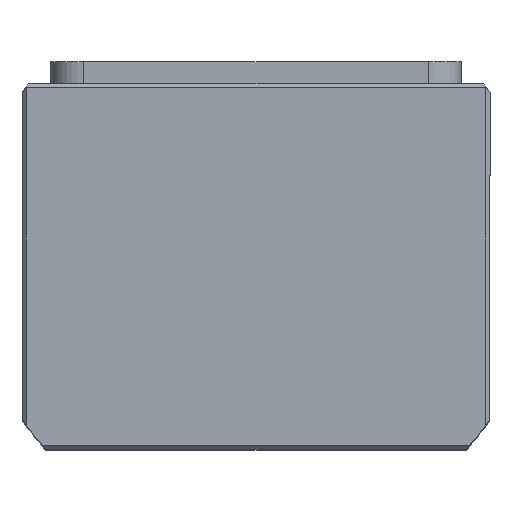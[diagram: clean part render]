
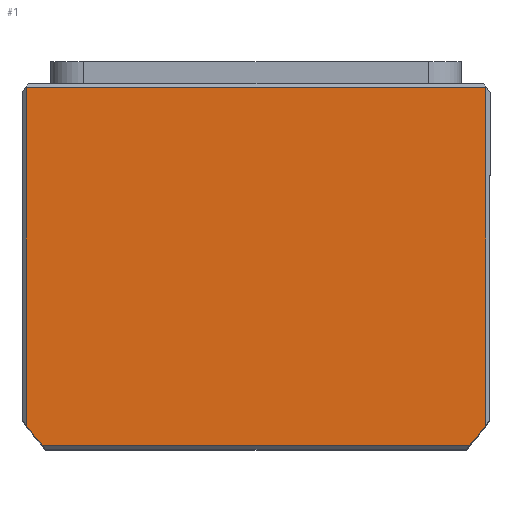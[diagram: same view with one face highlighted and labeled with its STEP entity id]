
A CAD part, top view. The second image highlights one B-rep face of the part: STEP entity #1.
In plain terms, the highlighted planar face has unit normal (0, 0, 1) as drawn and (0, 0, -1) by its records, which use the part's own axes.
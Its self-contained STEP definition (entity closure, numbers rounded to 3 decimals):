
#1 = ADVANCED_FACE ( 'NONE', ( #16371 ), #10459, .F. ) ;
#375 = VERTEX_POINT ( 'NONE', #3773 ) ;
#612 = ORIENTED_EDGE ( 'NONE', *, *, #13664, .T. ) ;
#1170 = ORIENTED_EDGE ( 'NONE', *, *, #10270, .F. ) ;
#1355 = ORIENTED_EDGE ( 'NONE', *, *, #19184, .T. ) ;
#1804 = DIRECTION ( 'NONE',  ( 1., 0., 0. ) ) ;
#2030 = VECTOR ( 'NONE', #9453, 1000. ) ;
#2727 = CARTESIAN_POINT ( 'NONE',  ( 0., -2.5, 0. ) ) ;
#3356 = ORIENTED_EDGE ( 'NONE', *, *, #21311, .F. ) ;
#3529 = VERTEX_POINT ( 'NONE', #10838 ) ;
#3575 = VECTOR ( 'NONE', #7752, 1000. ) ;
#3773 = CARTESIAN_POINT ( 'NONE',  ( -52.098, 43.5, 0. ) ) ;
#4336 = ORIENTED_EDGE ( 'NONE', *, *, #10733, .T. ) ;
#4537 = ORIENTED_EDGE ( 'NONE', *, *, #18243, .T. ) ;
#4577 = DIRECTION ( 'NONE',  ( 1., 0., 0. ) ) ;
#6480 = CIRCLE ( 'NONE', #20445, 69.5 ) ;
#7391 = VERTEX_POINT ( 'NONE', #10124 ) ;
#7752 = DIRECTION ( 'NONE',  ( 1., 0., 0. ) ) ;
#8152 = VERTEX_POINT ( 'NONE', #11642 ) ;
#9453 = DIRECTION ( 'NONE',  ( 0., -1., 0. ) ) ;
#9698 = DIRECTION ( 'NONE',  ( 0., 0., 1. ) ) ;
#10124 = CARTESIAN_POINT ( 'NONE',  ( -56., -43.5, 0. ) ) ;
#10270 = EDGE_CURVE ( 'NONE', #375, #8152, #6480, .T. ) ;
#10459 = PLANE ( 'NONE',  #20340 ) ;
#10733 = EDGE_CURVE ( 'NONE', #375, #3529, #13928, .T. ) ;
#10838 = CARTESIAN_POINT ( 'NONE',  ( 52.098, 43.5, 0. ) ) ;
#11282 = LINE ( 'NONE', #13678, #15009 ) ;
#11642 = CARTESIAN_POINT ( 'NONE',  ( -56., 38.661, 0. ) ) ;
#11914 = DIRECTION ( 'NONE',  ( 0., 1., 0. ) ) ;
#12395 = CARTESIAN_POINT ( 'NONE',  ( 0., 0., 0. ) ) ;
#13295 = EDGE_LOOP ( 'NONE', ( #3356, #1355, #4537, #612, #1170, #4336 ) ) ;
#13664 = EDGE_CURVE ( 'NONE', #7391, #8152, #11282, .T. ) ;
#13678 = CARTESIAN_POINT ( 'NONE',  ( -56., 0., 0. ) ) ;
#13928 = LINE ( 'NONE', #22342, #3575 ) ;
#15009 = VECTOR ( 'NONE', #11914, 1000. ) ;
#15551 = DIRECTION ( 'NONE',  ( 0., 0., 1. ) ) ;
#16371 = FACE_OUTER_BOUND ( 'NONE', #13295, .T. ) ;
#17589 = DIRECTION ( 'NONE',  ( 0., 0., 1. ) ) ;
#17930 = CARTESIAN_POINT ( 'NONE',  ( 56., -43.5, 0. ) ) ;
#17938 = CARTESIAN_POINT ( 'NONE',  ( 56., 38.661, 0. ) ) ;
#18243 = EDGE_CURVE ( 'NONE', #20439, #7391, #19278, .T. ) ;
#18507 = AXIS2_PLACEMENT_3D ( 'NONE', #20698, #9698, #22537 ) ;
#18694 = VECTOR ( 'NONE', #21120, 1000. ) ;
#19184 = EDGE_CURVE ( 'NONE', #22558, #20439, #20988, .T. ) ;
#19278 = LINE ( 'NONE', #21049, #18694 ) ;
#20340 = AXIS2_PLACEMENT_3D ( 'NONE', #12395, #17589, #1804 ) ;
#20439 = VERTEX_POINT ( 'NONE', #17930 ) ;
#20445 = AXIS2_PLACEMENT_3D ( 'NONE', #2727, #15551, #4577 ) ;
#20698 = CARTESIAN_POINT ( 'NONE',  ( 0., -2.5, 0. ) ) ;
#20988 = LINE ( 'NONE', #22305, #2030 ) ;
#21049 = CARTESIAN_POINT ( 'NONE',  ( 0., -43.5, 0. ) ) ;
#21120 = DIRECTION ( 'NONE',  ( -1., 0., 0. ) ) ;
#21311 = EDGE_CURVE ( 'NONE', #22558, #3529, #22124, .T. ) ;
#22124 = CIRCLE ( 'NONE', #18507, 69.5 ) ;
#22305 = CARTESIAN_POINT ( 'NONE',  ( 56., 0., 0. ) ) ;
#22342 = CARTESIAN_POINT ( 'NONE',  ( 0., 43.5, 0. ) ) ;
#22537 = DIRECTION ( 'NONE',  ( 1., 0., 0. ) ) ;
#22558 = VERTEX_POINT ( 'NONE', #17938 ) ;
